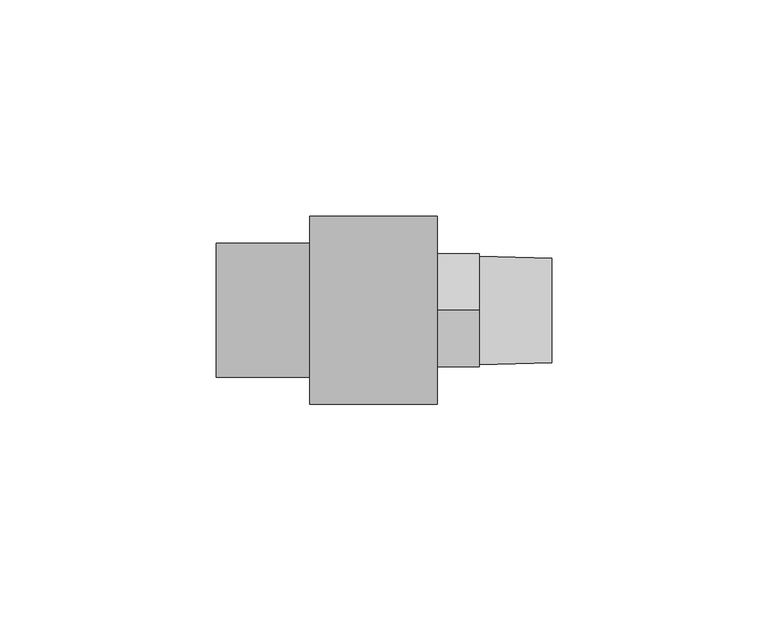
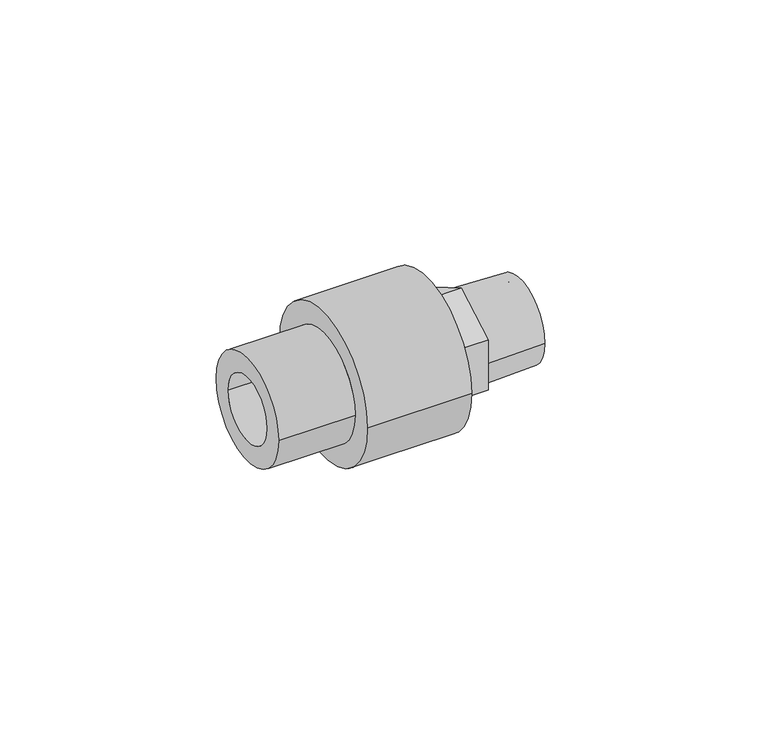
"""IFC4 building model written with IfcOpenShell, lengths in millimetres: pipe fitting geometry, Aquatherm - Fusion Outlet Transition Male : POTABLE BRASS - HEX."""

from ifc_helpers import new_model, si_unit, frame, origin, place, context, project, spatial, polyline, circle_curve, source, transform, mapped, element, save
from ifc_brep_helpers import plane_surface, cylinder_surface, revolved_surface, advanced_brep


def pipe_fitting_7374cd2c(model_context):
    return source(origin(), model_context, "Body", "AdvancedBrep", [
        advanced_brep(
        [(9.1241563, 15.494, 0.0), (9.1241563, -15.494, 0.0), (9.1241563, 9.525, 0.0), (9.1241563, -9.525, 0.0), (29.4441563, 15.494, 0.0), (29.4441563, -15.494, 0.0), (29.4441563, 0.0, -15.1046377), (29.4441563, -13.081, -7.5523189), (29.4441563, -13.081, 7.5523189), (29.4441563, 0.0, 15.1046377), (29.4441563, 13.081, 7.5523189), (29.4441563, 13.081, -7.5523189), (29.4441563, 9.525, 0.0), (29.4441563, -9.525, 0.0), (39.0961563, 0.0, -15.1046377), (39.0961563, 13.081, -7.5523189), (39.0961563, 13.081, 7.5523189), (39.0961563, 0.0, 15.1046377), (39.0961563, -13.081, 7.5523189), (39.0961563, -13.081, -7.5523189), (39.0961563, 12.5560449, 0.0), (39.0961563, -12.5560449, 0.0), (39.0961563, 9.525, 0.0), (39.0961563, -9.525, 0.0), (55.8601563, -9.525, 0.0), (55.8601563, 9.525, 0.0), (55.8601563, -12.0502051, 0.0), (55.8601563, 12.0502051, 0.0)],
        [
            (0, 1, circle_curve(frame((9.1241563, 0.0, 0.0), z_axis=(-1.0, 0.0, 0.0), x_axis=(0.0, -1.0, 0.0)), 15.494)),
            (1, 0, circle_curve(frame((9.1241563, 0.0, 0.0), z_axis=(-1.0, 0.0, 0.0), x_axis=(0.0, -1.0, 0.0)), 15.494)),
            (2, 3, circle_curve(frame((9.1241563, 0.0, 0.0), z_axis=(1.0, 0.0, 0.0), x_axis=(0.0, -1.0, 0.0)), 9.525)),
            (3, 2, circle_curve(frame((9.1241563, 0.0, 0.0), z_axis=(1.0, 0.0, 0.0), x_axis=(0.0, -1.0, 0.0)), 9.525)),
            (4, 5, circle_curve(frame((29.4441563, 0.0, 0.0), z_axis=(1.0, 0.0, 0.0), x_axis=(0.0, -1.0, 0.0)), 15.494)),
            (5, 4, circle_curve(frame((29.4441563, 0.0, 0.0), z_axis=(1.0, 0.0, 0.0), x_axis=(0.0, -1.0, 0.0)), 15.494)),
            (6, 7),
            (7, 8),
            (8, 9),
            (9, 10),
            (10, 11),
            (11, 6),
            (0, 4),
            (5, 1),
            (2, 12),
            (12, 13, circle_curve(frame((29.4441563, 0.0, 0.0), z_axis=(1.0, 0.0, 0.0), x_axis=(0.0, -1.0, 0.0)), 9.525)),
            (13, 3),
            (13, 12, circle_curve(frame((29.4441563, 0.0, 0.0), z_axis=(1.0, 0.0, 0.0), x_axis=(0.0, -1.0, 0.0)), 9.525)),
            (14, 15),
            (15, 16),
            (16, 17),
            (17, 18),
            (18, 19),
            (19, 14),
            (20, 21, circle_curve(frame((39.0961563, 0.0, 0.0), z_axis=(-1.0, 0.0, 0.0), x_axis=(0.0, -1.0, 0.0)), 12.5560449)),
            (21, 20, circle_curve(frame((39.0961563, 0.0, 0.0), z_axis=(-1.0, 0.0, 0.0), x_axis=(0.0, -1.0, 0.0)), 12.5560449)),
            (19, 7),
            (6, 14),
            (18, 8),
            (17, 9),
            (16, 10),
            (15, 11),
            (12, 22),
            (22, 23, circle_curve(frame((39.0961563, 0.0, 0.0), z_axis=(1.0, 0.0, 0.0), x_axis=(0.0, -1.0, 0.0)), 9.525)),
            (23, 13),
            (23, 22, circle_curve(frame((39.0961563, 0.0, 0.0), z_axis=(1.0, 0.0, 0.0), x_axis=(0.0, -1.0, 0.0)), 9.525)),
            (23, 24),
            (24, 25, circle_curve(frame((55.8601563, 0.0, 0.0), z_axis=(1.0, 0.0, 0.0), x_axis=(0.0, -1.0, 0.0)), 9.525)),
            (25, 22),
            (25, 24, circle_curve(frame((55.8601563, 0.0, 0.0), z_axis=(1.0, 0.0, 0.0), x_axis=(0.0, -1.0, 0.0)), 9.525)),
            (24, 26),
            (26, 27, circle_curve(frame((55.8601563, 0.0, 0.0), z_axis=(1.0, 0.0, 0.0), x_axis=(0.0, -1.0, 0.0)), 12.0502051)),
            (27, 25),
            (27, 26, circle_curve(frame((55.8601563, 0.0, 0.0), z_axis=(1.0, 0.0, 0.0), x_axis=(0.0, -1.0, 0.0)), 12.0502051)),
            (26, 21),
            (20, 27),
        ],
        [
            plane_surface(frame((9.1241563, -15.494, 0.0), z_axis=(-1.0, 0.0, 0.0), x_axis=(0.0, 0.0, 1.0))),
            plane_surface(frame((29.4441563, -15.494, 0.0), z_axis=(1.0, 0.0, 0.0), x_axis=(0.0, 0.0, -1.0))),
            cylinder_surface(frame((29.4441563, 0.0, 0.0), z_axis=(-1.0, 0.0, 0.0), x_axis=(0.0, -1.0, 0.0)), 15.494),
            revolved_surface(polyline([(29.444156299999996, -9.525, 0.0), (9.1241563, -9.525, 0.0)]), (11.9969372, 0.0, 0.0), (1.0, 0.0, 0.0)),
            plane_surface(frame((39.0961563, 0.0, -15.1046377), z_axis=(1.0000000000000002, 0.0, 0.0), x_axis=(0.0, 0.8660254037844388, -0.49999999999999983))),
            plane_surface(frame((29.4441563, 0.0, -15.1046377), z_axis=(0.0, -0.49999999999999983, -0.8660254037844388), x_axis=(1.0, 0.0, 0.0))),
            plane_surface(frame((29.4441563, -13.081, -7.5523189), z_axis=(0.0, -1.0, 0.0), x_axis=(1.0, 0.0, 0.0))),
            plane_surface(frame((29.4441563, -13.081, 7.5523189), z_axis=(0.0, -0.4999999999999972, 0.8660254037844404), x_axis=(1.0, 0.0, 0.0))),
            plane_surface(frame((29.4441563, 0.0, 15.1046377), z_axis=(0.0, 0.500000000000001, 0.8660254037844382), x_axis=(1.0, 0.0, 0.0))),
            plane_surface(frame((29.4441563, 13.081, 7.5523189), z_axis=(0.0, 1.0, 0.0), x_axis=(1.0, 0.0, 0.0))),
            plane_surface(frame((29.4441563, 13.081, -7.5523189), z_axis=(0.0, 0.49999999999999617, -0.8660254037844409), x_axis=(1.0, 0.0, 0.0))),
            revolved_surface(polyline([(39.0961563, -9.525, 0.0), (29.4441563, -9.525, 0.0)]), (29.4441563, 0.0, 0.0), (1.0, 0.0, 0.0)),
            revolved_surface(polyline([(55.8601563, -9.525, 0.0), (39.0961563, -9.525, 0.0)]), (90.7332251, 0.0, 0.0), (1.0, 0.0, 0.0)),
            plane_surface(frame((55.8601563, 0.0, 0.0), z_axis=(1.0, 0.0, 0.0), x_axis=(0.0, -1.0, 0.0))),
            revolved_surface(polyline([(39.0961563, -12.5560449, 0.0), (55.8601563, -12.0502051, 0.0)]), (90.7332251, 0.0, 0.0), (1.0, 0.0, 0.0)),
        ],
        [
            (0, [[1, 2], [3, 4]]),
            (1, [[5, 6], [7, 8, 9, 10, 11, 12]]),
            (2, [[-1, 13, -6, 14]]),
            (2, [[-2, -14, -5, -13]]),
            (3, [[-3, 15, 16, 17]]),
            (3, [[-4, -17, 18, -15]]),
            (4, [[19, 20, 21, 22, 23, 24], [25, 26]]),
            (5, [[-24, 27, -7, 28]]),
            (6, [[-23, 29, -8, -27]]),
            (7, [[-22, 30, -9, -29]]),
            (8, [[-21, 31, -10, -30]]),
            (9, [[-20, 32, -11, -31]]),
            (10, [[-19, -28, -12, -32]]),
            (11, [[33, 34, 35, -16]]),
            (11, [[-33, -18, -35, 36]]),
            (12, [[37, 38, 39, -36]]),
            (12, [[-37, -34, -39, 40]]),
            (13, [[-38, 41, 42, 43]]),
            (13, [[-40, -43, 44, -41]]),
            (14, [[-42, 45, -25, 46]]),
            (14, [[-44, -46, -26, -45]]),
        ],
    ),
        advanced_brep(
        [(9.128125, 15.478125, 0.0), (9.128125, -15.478125, 0.0), (9.128125, 9.525, 0.0), (9.128125, -9.525, 0.0), (-21.6243243, -9.525, 0.0), (-21.6243243, 9.525, 0.0), (-21.6243243, -15.478125, 0.0), (-21.6243243, 15.478125, 0.0), (0.0, 15.478125, 0.0), (0.0, -15.478125, 0.0), (29.4441562, 21.7289063, 0.0), (29.4441562, -21.7289063, 0.0), (29.4441562, 15.478125, 0.0), (29.4441562, -15.478125, 0.0), (0.0, -21.7289063, 0.0), (0.0, 21.7289063, 0.0)],
        [
            (0, 1, circle_curve(frame((9.128125, 0.0, 0.0), z_axis=(1.0, 0.0, 0.0), x_axis=(0.0, -1.0, 0.0)), 15.478125)),
            (1, 0, circle_curve(frame((9.128125, 0.0, 0.0), z_axis=(1.0, 0.0, 0.0), x_axis=(0.0, -1.0, 0.0)), 15.478125)),
            (2, 3, circle_curve(frame((9.128125, 0.0, 0.0), z_axis=(-1.0, 0.0, 0.0), x_axis=(0.0, -1.0, 0.0)), 9.525)),
            (3, 2, circle_curve(frame((9.128125, 0.0, 0.0), z_axis=(-1.0, 0.0, 0.0), x_axis=(0.0, -1.0, 0.0)), 9.525)),
            (4, 5, circle_curve(frame((-21.6243243, 0.0, 0.0), z_axis=(-1.0, 0.0, 0.0), x_axis=(0.0, -1.0, 0.0)), 9.525)),
            (5, 2),
            (3, 4),
            (5, 4, circle_curve(frame((-21.6243243, 0.0, 0.0), z_axis=(-1.0, 0.0, 0.0), x_axis=(0.0, -1.0, 0.0)), 9.525)),
            (6, 7, circle_curve(frame((-21.6243243, 0.0, 0.0), z_axis=(1.0, 0.0, 0.0), x_axis=(0.0, -1.0, 0.0)), 15.478125)),
            (7, 8),
            (8, 9, circle_curve(frame((0.0, 0.0, 0.0), z_axis=(-1.0, 0.0, 0.0), x_axis=(0.0, -1.0, 0.0)), 15.478125)),
            (9, 6),
            (7, 6, circle_curve(frame((-21.6243243, 0.0, 0.0), z_axis=(1.0, 0.0, 0.0), x_axis=(0.0, -1.0, 0.0)), 15.478125)),
            (9, 8, circle_curve(frame((0.0, 0.0, 0.0), z_axis=(-1.0, 0.0, 0.0), x_axis=(0.0, -1.0, 0.0)), 15.478125)),
            (10, 11, circle_curve(frame((29.4441562, 0.0, 0.0), z_axis=(1.0, 0.0, 0.0), x_axis=(0.0, -1.0, 0.0)), 21.7289063)),
            (11, 10, circle_curve(frame((29.4441562, 0.0, 0.0), z_axis=(1.0, 0.0, 0.0), x_axis=(0.0, -1.0, 0.0)), 21.7289063)),
            (12, 13, circle_curve(frame((29.4441562, 0.0, 0.0), z_axis=(-1.0, 0.0, 0.0), x_axis=(0.0, -1.0, 0.0)), 15.478125)),
            (13, 12, circle_curve(frame((29.4441562, 0.0, 0.0), z_axis=(-1.0, 0.0, 0.0), x_axis=(0.0, -1.0, 0.0)), 15.478125)),
            (13, 1),
            (0, 12),
            (11, 14),
            (14, 15, circle_curve(frame((0.0, 0.0, 0.0), z_axis=(1.0, 0.0, 0.0), x_axis=(0.0, -1.0, 0.0)), 21.7289063)),
            (15, 10),
            (15, 14, circle_curve(frame((0.0, 0.0, 0.0), z_axis=(1.0, 0.0, 0.0), x_axis=(0.0, -1.0, 0.0)), 21.7289063)),
        ],
        [
            plane_surface(frame((9.128125, -9.525, 0.0), z_axis=(1.0, 0.0, 0.0), x_axis=(0.0, 0.0, 1.0))),
            revolved_surface(polyline([(9.128125, -9.525, 0.0), (-21.6243243, -9.525, 0.0)]), (9.128125, 0.0, 0.0), (1.0, 0.0, 0.0)),
            cylinder_surface(frame((0.0, 0.0, 0.0), z_axis=(-1.0, 0.0, 0.0), x_axis=(0.0, -1.0, 0.0)), 15.478125),
            plane_surface(frame((29.4441562, -15.478125, 0.0), z_axis=(1.0, 0.0, 0.0), x_axis=(0.0, 0.0, 1.0))),
            revolved_surface(polyline([(29.4441562, -15.478125, 0.0), (9.128125, -15.478125, 0.0)]), (29.4441562, 0.0, 0.0), (1.0, 0.0, 0.0)),
            cylinder_surface(frame((0.0, 0.0, 0.0), z_axis=(-1.0, 0.0, 0.0), x_axis=(0.0, -1.0, 0.0)), 21.7289063),
            plane_surface(frame((-21.6243243, -9.525, 0.0), z_axis=(-1.0, 0.0, 0.0), x_axis=(0.0, 0.0, -1.0))),
            plane_surface(frame((0.0, -15.478125, 0.0), z_axis=(-1.0, 0.0, 0.0), x_axis=(0.0, 0.0, -1.0))),
        ],
        [
            (0, [[1, 2], [3, 4]]),
            (1, [[5, 6, -4, 7]]),
            (1, [[8, -7, -3, -6]]),
            (2, [[9, 10, 11, 12]]),
            (2, [[13, -12, 14, -10]]),
            (3, [[15, 16], [17, 18]]),
            (4, [[-18, 19, -1, 20]]),
            (4, [[-17, -20, -2, -19]]),
            (5, [[-16, 21, 22, 23]]),
            (5, [[-15, -23, 24, -21]]),
            (6, [[-9, -13], [-5, -8]]),
            (7, [[-22, -24], [-11, -14]]),
        ],
    ),
    ])


if __name__ == "__main__":
    model = new_model("IFC4")
    model_context = context("Model", 3, world=origin())
    ifc_project = project(units=[si_unit("LENGTHUNIT", "METRE", prefix="MILLI")], contexts=[model_context])
    site = spatial("IfcSite", under=ifc_project)
    building = spatial("IfcBuilding", under=site)
    placement = place(None, origin())
    pipe_fitting_shape = pipe_fitting_7374cd2c(model_context)
    element("IfcPipeFitting", 1, ObjectType="Aquatherm - Fusion Outlet Transition Male : POTABLE BRASS - HEX", at=placement, inside=building, context=model_context, shape_type="MappedRepresentation", body=[
        mapped(pipe_fitting_shape, transform((0.0, 0.0, 0.0), x_axis=(1.0, 0.0, 0.0), y_axis=(0.0, 1.0, 0.0), z_axis=(0.0, 0.0, 1.0))),
    ])
    save(model, "model.ifc")
